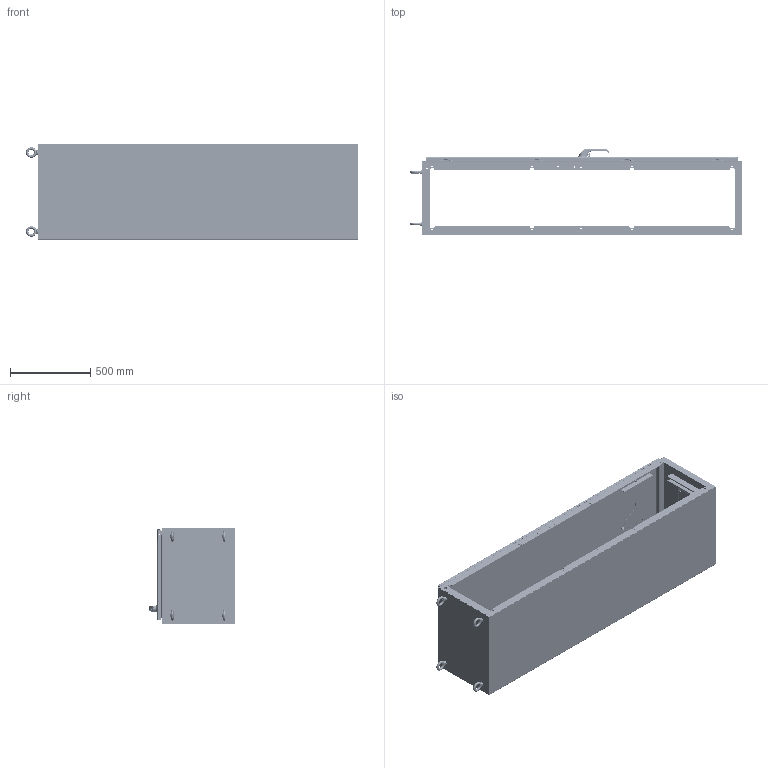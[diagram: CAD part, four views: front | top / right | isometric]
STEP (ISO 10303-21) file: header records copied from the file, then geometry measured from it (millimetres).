
FILE_DESCRIPTION((''),'2;1');
FILE_NAME('MODEL-255_ASM','2021-01-13T15:49:16',('mikek'),('SAGINAW CONTROL & ENGINEERING'),'CREO PARAMETRIC BY PTC INC, 2017260','CREO PARAMETRIC BY PTC INC, 2017260','');
FILE_SCHEMA(('AUTOMOTIVE_DESIGN { 1 0 10303 214 1 1 1 1 }'));
Length unit declared in the file: inch
Products named in the file (58): MODEL-255-R-SD; MODEL-255-L-SD; MODEL-255-TP; MODEL-255-BTM; MODEL-255-DR; 100837; 111267; 100882; 100956_HANDLE; 100956_HANDLE_INSERT; 100956_SHAFT_CAM; 100956_ADAPTER_CAM; 100956_NUT_CAM; 100956_BASE; 100956_O-RING; 100956_NUT_MOUNTING_LARGE; 100956_NUT_MOUNTING_SMALL; 100956_SCREW_SMALL; 100956_PADLOCK_CATCH; 100956_STOP_CAM; 100956_ASM; 102237; 100030; 102237_ASM; MODEL-255-ROD-UPR; 128146; 128145; 128144; 102482; MODEL-255-ROD-UPR_ASM; 128143; 112504; MODEL-255-ROD-LWR; MODEL-255-ROD-LWR_ASM; MODEL-255-GSKT; 128257; 126397; 128257_ASM; 126393; 102483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
Assembly tree (113 placements, depth 4):
  MODEL-255_ASM
    MODEL-255-R-SD
    MODEL-255-L-SD
    MODEL-255-TP
    MODEL-255-BTM
    MODEL-255-DOOR-ASSY_ASM
      MODEL-255-DR
      100837  x5
      111267
      100882  x12
      100956_ASM
        100956_HANDLE
        100956_HANDLE_INSERT
        100956_SHAFT_CAM
        100956_ADAPTER_CAM
        100956_NUT_CAM
        100956_BASE
        100956_O-RING
        100956_NUT_MOUNTING_LARGE
        100956_NUT_MOUNTING_SMALL
        100956_SCREW_SMALL
        100956_PADLOCK_CATCH
        100956_STOP_CAM
      102237_ASM
        102237
        100030  x2
      MODEL-255-ROD-UPR_ASM
        MODEL-255-ROD-UPR
        128146
        128145
        128144
        102482  x2
      128143  x2
      112504  x2
      MODEL-255-ROD-LWR_ASM
        MODEL-255-ROD-LWR
        128146
        128145
        128144
        102482  x2
      MODEL-255-GSKT
      128257_ASM  x4
        128257
        126397
      126393  x4
      102483  x4
      101369_ASM  x4
        101369
        101369-STUD
      101221  x4
    100064  x5
    MODEL-255-EBS  x2
    MODEL-255-B22  x4
    102278  x2
    103300_ASM  x4
      100834
      109064
      114505
    102297
    100882  x4
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Bounding box: 2074.9 x 534.57 x 600 mm (x, y, z)
Volume: 12348322.5 mm3; surface area: 8944595.5 mm2
Topology: 118 solids, 118 shells, 11361 faces, 30165 edges, 19034 vertices
Faces by surface type: plane 4026, cylinder 2996, bspline 2961, cone 616, torus 570, sphere 192
Entity records: 234943 total; most frequent: CARTESIAN_POINT 79215, ORIENTED_EDGE 23470, DIRECTION 21574, PRESENTATION_STYLE_ASSIGNMENT 11880, STYLED_ITEM 11775, EDGE_CURVE 11735, CURVE_STYLE 11723, AXIS2_PLACEMENT_3D 8014
